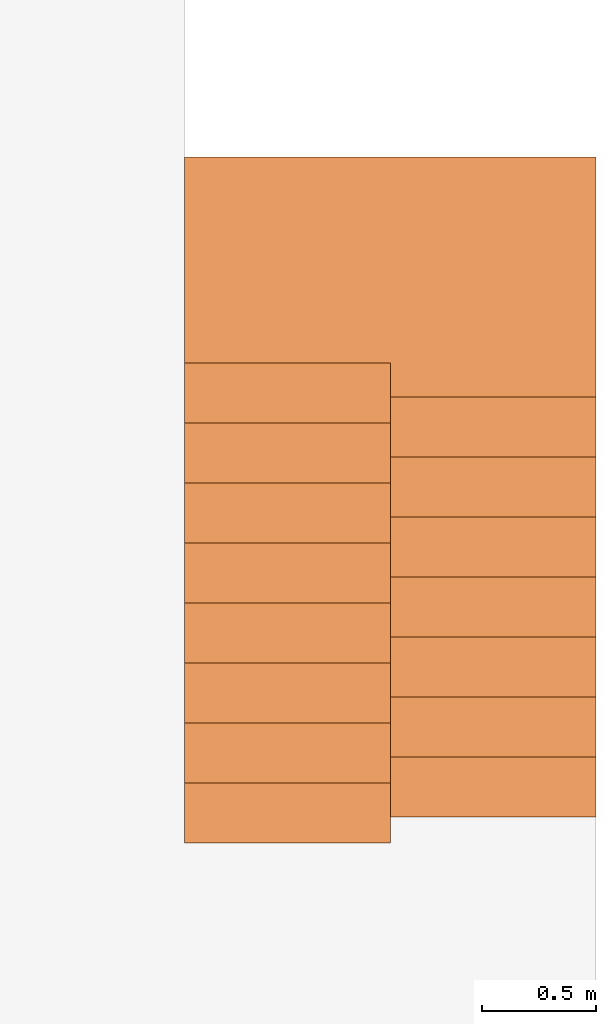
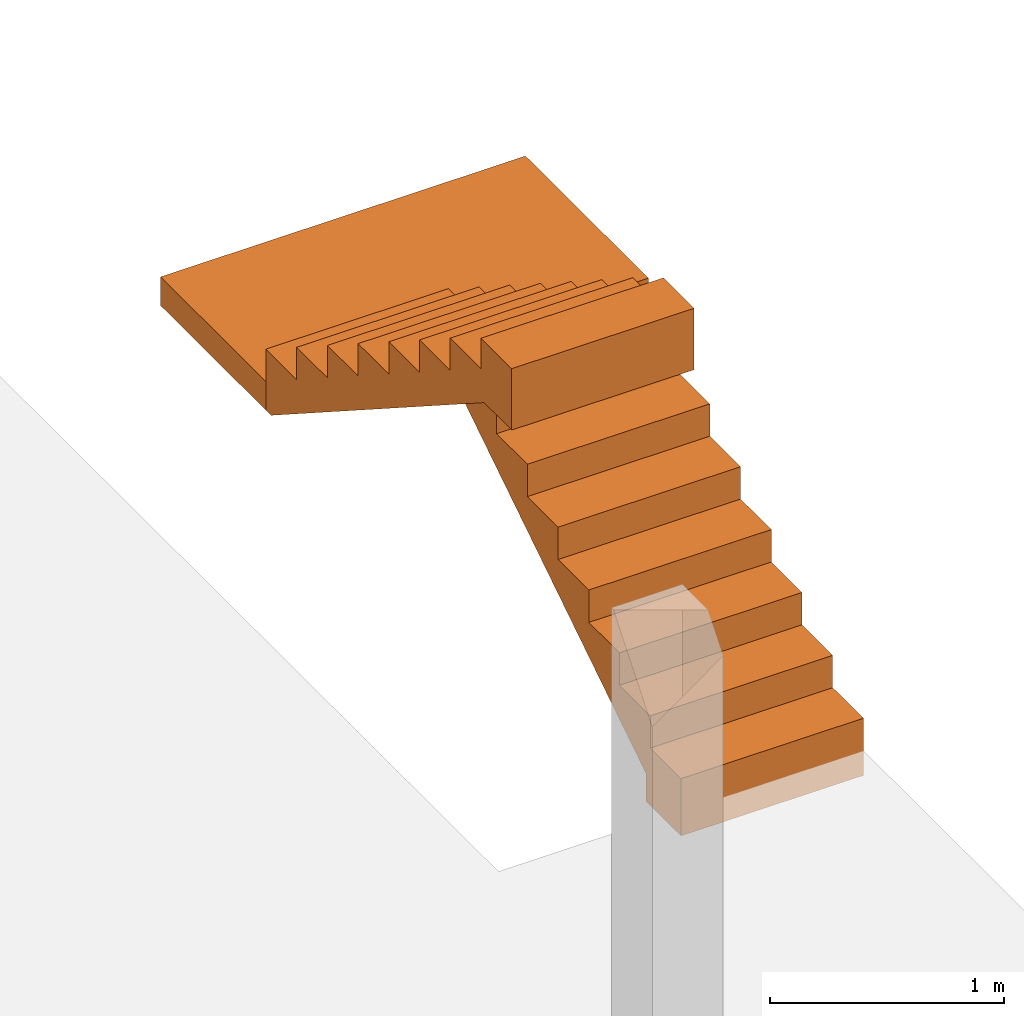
# One storey, part 2 of 2: 3 proxies, 1 element without a shape of its own.
"""IFC2X3 building model written with IfcOpenShell, lengths in metres."""

from ifc_helpers import new_model, entity, si_unit, converted_unit, money_unit, direction, frame, origin_with_axes, place, context, subcontext, project, spatial, faceted_brep, material, type_object, element, aggregate, save


model = new_model("IFC2X3")

# Units and contexts
model_context = context("Model", 3, precision=1e-05, world=origin_with_axes(), true_north=direction((0.0, 1.0)))
body_context = subcontext(model_context, "Body", "Model", "MODEL_VIEW")
ifc_project = project(units=[si_unit("LENGTHUNIT", "METRE"), si_unit("AREAUNIT", "SQUARE_METRE"), si_unit("VOLUMEUNIT", "CUBIC_METRE"), converted_unit("PLANEANGLEUNIT", "DEGREE", entity("IfcPlaneAngleMeasure", 0.0174532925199), si_unit("PLANEANGLEUNIT", "RADIAN"), dimensions=[0, 0, 0, 0, 0, 0, 0]), si_unit("SOLIDANGLEUNIT", "STERADIAN"), money_unit("EUR"), converted_unit("TIMEUNIT", "Year", entity("IfcTimeMeasure", 31556926.0), si_unit("TIMEUNIT", "SECOND"), dimensions=[0, 0, 0, 0, 0, 0, 0]), si_unit("MASSUNIT", "GRAM"), si_unit("THERMODYNAMICTEMPERATUREUNIT", "DEGREE_CELSIUS"), si_unit("LUMINOUSINTENSITYUNIT", "LUMEN")], contexts=[model_context])

# Site, building, storey
site_placement = place(None, origin_with_axes())
site = spatial("IfcSite", under=ifc_project, at=site_placement, Name="Site", CompositionType="ELEMENT")
building_placement = place(site_placement, origin_with_axes())
building = spatial("IfcBuilding", under=site, at=building_placement, Name="Bâtiment", CompositionType="ELEMENT")
storey_placement = place(building_placement, frame((0.0, 0.0, 2.7), z_axis=(0.0, 0.0, 1.0), x_axis=(1.0, 0.0, 0.0)))
storey = spatial("IfcBuildingStorey", under=building, at=storey_placement, Name="R+1", CompositionType="ELEMENT", Elevation=2.7)

# Proxies
building_element_proxy_type_1 = type_object("IfcBuildingElementProxyType", Name="Type d'escalier", PredefinedType="NOTDEFINED")
proxy_1_placement = place(storey_placement, frame((23.6960297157, 12.3070559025, 0.0), z_axis=(0.0, 0.0, 1.0), x_axis=(1.0, 0.0, 0.0)))
proxy_1 = element("IfcBuildingElementProxy", 1, at=proxy_1_placement, inside=storey, type_object=building_element_proxy_type_1, Name="ESC-001")
ifc_material = material(Name="GENERIQUE - STRUCTURE")
building_element_proxy_type_2 = type_object("IfcBuildingElementProxyType", Name="IfcBuildingElementProxy", PredefinedType="NOTDEFINED")
proxy_2_placement = place(proxy_1_placement, origin_with_axes())
proxy_2 = element("IfcBuildingElementProxy", 2, at=proxy_2_placement, type_object=building_element_proxy_type_2, material=ifc_material, Name="VOLEE-001", context=body_context, shape_type="Brep", body=[
    faceted_brep([(0.0, 1.8375, 1.18125), (-0.9, 1.8375, 1.18125), (-0.9, 1.575, 1.18125), (0.0, 1.575, 1.18125), (0.0, 1.8375, 1.2), (-0.9, 1.8375, 1.2), (-0.9, 1.8375, 1.00292874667), (-0.9, 1.79375, 0.974803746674), (-0.9, 1.75, 0.946678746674), (-0.9, 1.70625, 0.918553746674), (-0.9, 1.6625, 0.890428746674), (-0.9, 1.61875, 0.862303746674), (-0.9, 1.575, 0.834178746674), (-0.9, 1.53125, 0.806053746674), (-0.9, 1.4875, 0.777928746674), (-0.9, 1.44375, 0.749803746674), (-0.9, 1.4, 0.721678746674), (-0.9, 1.35625, 0.693553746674), (-0.9, 1.3125, 0.665428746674), (-0.9, 1.26875, 0.637303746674), (-0.9, 1.225, 0.609178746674), (-0.9, 1.18125, 0.581053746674), (-0.9, 1.1375, 0.552928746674), (-0.9, 1.09375, 0.524803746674), (-0.9, 1.05, 0.496678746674), (-0.9, 1.00625, 0.468553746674), (-0.9, 0.9625, 0.440428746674), (-0.9, 0.91875, 0.412303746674), (-0.9, 0.875, 0.384178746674), (-0.9, 0.83125, 0.356053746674), (-0.9, 0.7875, 0.327928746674), (-0.9, 0.74375, 0.299803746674), (-0.9, 0.7, 0.271678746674), (-0.9, 0.65625, 0.243553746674), (-0.9, 0.6125, 0.215428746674), (-0.9, 0.56875, 0.187303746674), (-0.9, 0.525, 0.159178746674), (-0.9, 0.48125, 0.131053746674), (-0.9, 0.4375, 0.102928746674), (-0.9, 0.39375, 0.074803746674), (-0.9, 0.35, 0.046678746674), (-0.9, 0.30625, 0.018553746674), (-0.9, 0.3, 0.0145358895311), (-0.9, 0.3, -0.13), (-0.9, 0.0, -0.13), (-0.9, 0.0, 0.16875), (-0.9, 0.2625, 0.16875), (-0.9, 0.2625, 0.3375), (-0.9, 0.525, 0.3375), (-0.9, 0.525, 0.50625), (-0.9, 0.7875, 0.50625), (-0.9, 0.7875, 0.675), (-0.9, 1.05, 0.675), (-0.9, 1.05, 0.84375), (-0.9, 1.3125, 0.84375), (-0.9, 1.3125, 1.0125), (-0.9, 1.575, 1.0125), (-0.9, 2.14405527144, 1.2), (0.0, 1.575, 1.0125), (0.0, 1.3125, 1.0125), (0.0, 1.3125, 0.84375), (0.0, 1.05, 0.84375), (0.0, 1.05, 0.675), (0.0, 0.7875, 0.675), (0.0, 0.7875, 0.50625), (0.0, 0.525, 0.50625), (0.0, 0.525, 0.3375), (0.0, 0.2625, 0.3375), (0.0, 0.2625, 0.16875), (0.0, 0.0, 0.16875), (0.0, 0.0, -0.13), (0.0, 0.3, -0.13), (0.0, 0.3, 0.0145358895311), (0.0, 0.30625, 0.018553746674), (0.0, 0.35, 0.046678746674), (0.0, 0.39375, 0.074803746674), (0.0, 0.4375, 0.102928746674), (0.0, 0.48125, 0.131053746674), (0.0, 0.525, 0.159178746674), (0.0, 0.56875, 0.187303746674), (0.0, 0.6125, 0.215428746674), (0.0, 0.65625, 0.243553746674), (0.0, 0.7, 0.271678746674), (0.0, 0.74375, 0.299803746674), (0.0, 0.7875, 0.327928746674), (0.0, 0.83125, 0.356053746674), (0.0, 0.875, 0.384178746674), (0.0, 0.91875, 0.412303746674), (0.0, 0.9625, 0.440428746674), (0.0, 1.00625, 0.468553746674), (0.0, 1.05, 0.496678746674), (0.0, 1.09375, 0.524803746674), (0.0, 1.1375, 0.552928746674), (0.0, 1.18125, 0.581053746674), (0.0, 1.225, 0.609178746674), (0.0, 1.26875, 0.637303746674), (0.0, 1.3125, 0.665428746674), (0.0, 1.35625, 0.693553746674), (0.0, 1.4, 0.721678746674), (0.0, 1.44375, 0.749803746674), (0.0, 1.4875, 0.777928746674), (0.0, 1.53125, 0.806053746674), (0.0, 1.575, 0.834178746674), (0.0, 1.61875, 0.862303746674), (0.0, 1.6625, 0.890428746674), (0.0, 1.70625, 0.918553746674), (0.0, 1.75, 0.946678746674), (0.0, 1.79375, 0.974803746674), (0.0, 1.8375, 1.00292874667), (0.0, 2.14405527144, 1.2), (-0.45, 1.75, 0.946678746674), (-0.45, 1.6625, 0.890428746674), (-0.45, 1.575, 0.834178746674), (-0.45, 1.4875, 0.777928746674), (-0.45, 1.4, 0.721678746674), (-0.45, 1.3125, 0.665428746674), (-0.45, 1.225, 0.609178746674), (-0.45, 1.1375, 0.552928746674), (-0.45, 1.05, 0.496678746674), (-0.45, 0.9625, 0.440428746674), (-0.45, 0.875, 0.384178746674), (-0.45, 0.7875, 0.327928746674), (-0.45, 0.7, 0.271678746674), (-0.45, 0.6125, 0.215428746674), (-0.45, 0.525, 0.159178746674), (-0.45, 0.4375, 0.102928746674), (-0.45, 0.35, 0.046678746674), (-0.835714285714, 0.3, 0.0145358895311), (-0.0642857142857, 0.3, 0.0145358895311)], [[[0, 1, 2, 3]], [[1, 0, 4, 5]], [[6, 7, 8, 9, 10, 11, 12, 13, 14, 15, 16, 17, 18, 19, 20, 21, 22, 23, 24, 25, 26, 27, 28, 29, 30, 31, 32, 33, 34, 35, 36, 37, 38, 39, 40, 41, 42, 43, 44, 45, 46, 47, 48, 49, 50, 51, 52, 53, 54, 55, 56, 2, 1, 5, 57]], [[58, 3, 2, 56]], [[0, 3, 58, 59, 60, 61, 62, 63, 64, 65, 66, 67, 68, 69, 70, 71, 72, 73, 74, 75, 76, 77, 78, 79, 80, 81, 82, 83, 84, 85, 86, 87, 88, 89, 90, 91, 92, 93, 94, 95, 96, 97, 98, 99, 100, 101, 102, 103, 104, 105, 106, 107, 108, 109, 4]], [[109, 57, 5, 4]], [[108, 107, 110, 7, 6, 57, 109]], [[7, 110, 8]], [[8, 110, 9]], [[9, 111, 10]], [[10, 111, 11]], [[11, 112, 12]], [[12, 112, 13]], [[13, 113, 14]], [[14, 113, 15]], [[15, 114, 16]], [[16, 114, 17]], [[17, 115, 18]], [[18, 115, 19]], [[19, 116, 20]], [[20, 116, 21]], [[21, 117, 22]], [[22, 117, 23]], [[23, 118, 24]], [[24, 118, 25]], [[25, 119, 26]], [[26, 119, 27]], [[27, 120, 28]], [[28, 120, 29]], [[29, 121, 30]], [[30, 121, 31]], [[31, 122, 32]], [[32, 122, 33]], [[33, 123, 34]], [[34, 123, 35]], [[35, 124, 36]], [[36, 124, 37]], [[37, 125, 38]], [[38, 125, 39]], [[39, 126, 40]], [[40, 126, 41]], [[41, 127, 42]], [[127, 128, 72, 71, 43, 42]], [[71, 70, 44, 43]], [[69, 45, 44, 70]], [[46, 45, 69, 68]], [[68, 67, 47, 46]], [[48, 47, 67, 66]], [[66, 65, 49, 48]], [[50, 49, 65, 64]], [[64, 63, 51, 50]], [[52, 51, 63, 62]], [[62, 61, 53, 52]], [[54, 53, 61, 60]], [[60, 59, 55, 54]], [[56, 55, 59, 58]], [[73, 72, 128]], [[73, 126, 74]], [[74, 126, 75]], [[75, 125, 76]], [[76, 125, 77]], [[77, 124, 78]], [[78, 124, 79]], [[79, 123, 80]], [[80, 123, 81]], [[81, 122, 82]], [[82, 122, 83]], [[83, 121, 84]], [[84, 121, 85]], [[85, 120, 86]], [[86, 120, 87]], [[87, 119, 88]], [[88, 119, 89]], [[89, 118, 90]], [[90, 118, 91]], [[91, 117, 92]], [[92, 117, 93]], [[93, 116, 94]], [[94, 116, 95]], [[95, 115, 96]], [[96, 115, 97]], [[97, 114, 98]], [[98, 114, 99]], [[99, 113, 100]], [[100, 113, 101]], [[101, 112, 102]], [[102, 112, 103]], [[103, 111, 104]], [[104, 111, 105]], [[105, 110, 106]], [[106, 110, 107]], [[9, 110, 105, 111]], [[112, 11, 111, 103]], [[13, 112, 101, 113]], [[15, 113, 99, 114]], [[17, 114, 97, 115]], [[19, 115, 95, 116]], [[117, 21, 116, 93]], [[23, 117, 91, 118]], [[25, 118, 89, 119]], [[27, 119, 87, 120]], [[121, 29, 120, 85]], [[31, 121, 83, 122]], [[123, 33, 122, 81]], [[35, 123, 79, 124]], [[125, 37, 124, 77]], [[126, 39, 125, 75]], [[73, 128, 127, 41, 126]]]),
])
proxy_3_placement = place(proxy_1_placement, origin_with_axes())
proxy_3 = element("IfcBuildingElementProxy", 3, at=proxy_3_placement, type_object=building_element_proxy_type_2, material=ifc_material, Name="PALIER-001", context=body_context, shape_type="Brep", body=[
    faceted_brep([(-0.9, 1.8375, 1.2), (0.0, 1.8375, 1.2), (0.0, 1.8375, 1.35), (-0.9, 1.8375, 1.35), (-0.9, 1.9875, 1.2), (-1.8, 1.9875, 1.2), (-1.8, 2.8875, 1.2), (0.0, 2.8875, 1.2), (0.0, 2.8875, 1.35), (-1.8, 2.8875, 1.35), (-1.8, 1.9875, 1.35), (-0.9, 1.9875, 1.35)], [[[0, 1, 2, 3]], [[0, 4, 5, 6, 7, 1]], [[1, 7, 8, 2]], [[3, 2, 8, 9, 10, 11]], [[4, 0, 3, 11]], [[5, 4, 11, 10]], [[6, 5, 10, 9]], [[7, 6, 9, 8]]]),
])
proxy_4_placement = place(proxy_1_placement, origin_with_axes())
proxy_4 = element("IfcBuildingElementProxy", 4, at=proxy_4_placement, type_object=building_element_proxy_type_2, material=ifc_material, Name="VOLEE-002", context=body_context, shape_type="Brep", body=[
    faceted_brep([(-1.8, -0.1125, 2.69), (-1.8, -0.1125, 2.52167874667), (-0.9, -0.1125, 2.52167874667), (-0.9, -0.1125, 2.69), (-1.8, -0.1125, 2.37), (-1.8, 0.15, 2.69), (-1.8, 0.15, 2.53125), (-1.8, 0.4125, 2.53125), (-1.8, 0.4125, 2.3625), (-1.8, 0.675, 2.3625), (-1.8, 0.675, 2.19375), (-1.8, 0.9375, 2.19375), (-1.8, 0.9375, 2.025), (-1.8, 1.2, 2.025), (-1.8, 1.2, 1.85625), (-1.8, 1.4625, 1.85625), (-1.8, 1.4625, 1.6875), (-1.8, 1.725, 1.6875), (-1.8, 1.725, 1.51875), (-1.8, 1.9875, 1.51875), (-1.8, 1.9875, 1.2), (-1.8, 1.94344471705, 1.2), (-1.8, 1.9, 1.22792874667), (-1.8, 1.85625, 1.25605374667), (-1.8, 1.8125, 1.28417874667), (-1.8, 1.76875, 1.31230374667), (-1.8, 1.725, 1.34042874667), (-1.8, 1.68125, 1.36855374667), (-1.8, 1.6375, 1.39667874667), (-1.8, 1.59375, 1.42480374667), (-1.8, 1.55, 1.45292874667), (-1.8, 1.50625, 1.48105374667), (-1.8, 1.4625, 1.50917874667), (-1.8, 1.41875, 1.53730374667), (-1.8, 1.375, 1.56542874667), (-1.8, 1.33125, 1.59355374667), (-1.8, 1.2875, 1.62167874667), (-1.8, 1.24375, 1.64980374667), (-1.8, 1.2, 1.67792874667), (-1.8, 1.15625, 1.70605374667), (-1.8, 1.1125, 1.73417874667), (-1.8, 1.06875, 1.76230374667), (-1.8, 1.025, 1.79042874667), (-1.8, 0.98125, 1.81855374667), (-1.8, 0.9375, 1.84667874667), (-1.8, 0.89375, 1.87480374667), (-1.8, 0.85, 1.90292874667), (-1.8, 0.80625, 1.93105374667), (-1.8, 0.7625, 1.95917874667), (-1.8, 0.71875, 1.98730374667), (-1.8, 0.675, 2.01542874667), (-1.8, 0.63125, 2.04355374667), (-1.8, 0.5875, 2.07167874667), (-1.8, 0.54375, 2.09980374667), (-1.8, 0.5, 2.12792874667), (-1.8, 0.45625, 2.15605374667), (-1.8, 0.4125, 2.18417874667), (-1.8, 0.36875, 2.21230374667), (-1.8, 0.325, 2.24042874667), (-1.8, 0.28125, 2.26855374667), (-1.8, 0.2375, 2.29667874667), (-1.8, 0.19375, 2.32480374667), (-1.8, 0.15, 2.35292874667), (-1.8, 0.123444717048, 2.37), (-0.9, -0.1125, 2.37), (-0.9, 0.123444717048, 2.37), (-0.9, 0.15, 2.35292874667), (-0.9, 0.19375, 2.32480374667), (-0.9, 0.2375, 2.29667874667), (-0.9, 0.28125, 2.26855374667), (-0.9, 0.325, 2.24042874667), (-0.9, 0.36875, 2.21230374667), (-0.9, 0.4125, 2.18417874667), (-0.9, 0.45625, 2.15605374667), (-0.9, 0.5, 2.12792874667), (-0.9, 0.54375, 2.09980374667), (-0.9, 0.5875, 2.07167874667), (-0.9, 0.63125, 2.04355374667), (-0.9, 0.675, 2.01542874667), (-0.9, 0.71875, 1.98730374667), (-0.9, 0.7625, 1.95917874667), (-0.9, 0.80625, 1.93105374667), (-0.9, 0.85, 1.90292874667), (-0.9, 0.89375, 1.87480374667), (-0.9, 0.9375, 1.84667874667), (-0.9, 0.98125, 1.81855374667), (-0.9, 1.025, 1.79042874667), (-0.9, 1.06875, 1.76230374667), (-0.9, 1.1125, 1.73417874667), (-0.9, 1.15625, 1.70605374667), (-0.9, 1.2, 1.67792874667), (-0.9, 1.24375, 1.64980374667), (-0.9, 1.2875, 1.62167874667), (-0.9, 1.33125, 1.59355374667), (-0.9, 1.375, 1.56542874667), (-0.9, 1.41875, 1.53730374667), (-0.9, 1.4625, 1.50917874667), (-0.9, 1.50625, 1.48105374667), (-0.9, 1.55, 1.45292874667), (-0.9, 1.59375, 1.42480374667), (-0.9, 1.6375, 1.39667874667), (-0.9, 1.68125, 1.36855374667), (-0.9, 1.725, 1.34042874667), (-0.9, 1.76875, 1.31230374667), (-0.9, 1.8125, 1.28417874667), (-0.9, 1.85625, 1.25605374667), (-0.9, 1.9, 1.22792874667), (-0.9, 1.94344471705, 1.2), (-0.9, 1.9875, 1.2), (-0.9, 1.9875, 1.51875), (-0.9, 1.725, 1.51875), (-0.9, 1.725, 1.6875), (-0.9, 1.4625, 1.6875), (-0.9, 1.4625, 1.85625), (-0.9, 1.2, 1.85625), (-0.9, 1.2, 2.025), (-0.9, 0.9375, 2.025), (-0.9, 0.9375, 2.19375), (-0.9, 0.675, 2.19375), (-0.9, 0.675, 2.3625), (-0.9, 0.4125, 2.3625), (-0.9, 0.4125, 2.53125), (-0.9, 0.15, 2.53125), (-0.9, 0.15, 2.69), (-0.903140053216, 1.94344471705, 1.2), (-1.79685994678, 1.94344471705, 1.2), (-1.35, 1.9, 1.22792874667), (-1.35, 1.8125, 1.28417874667), (-1.35, 1.725, 1.34042874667), (-1.35, 1.6375, 1.39667874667), (-1.35, 1.55, 1.45292874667), (-1.35, 1.4625, 1.50917874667), (-1.35, 1.375, 1.56542874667), (-1.35, 1.2875, 1.62167874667), (-1.35, 1.2, 1.67792874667), (-1.35, 1.1125, 1.73417874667), (-1.35, 1.025, 1.79042874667), (-1.35, 0.9375, 1.84667874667), (-1.35, 0.85, 1.90292874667), (-1.35, 0.7625, 1.95917874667), (-1.35, 0.675, 2.01542874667), (-1.35, 0.5875, 2.07167874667), (-1.35, 0.5, 2.12792874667), (-1.35, 0.4125, 2.18417874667), (-1.35, 0.325, 2.24042874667), (-1.35, 0.2375, 2.29667874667), (-1.35, 0.15, 2.35292874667), (-1.62314005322, 0.123444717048, 2.37), (-1.07685994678, 0.123444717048, 2.37)], [[[0, 1, 2, 3]], [[4, 1, 0, 5, 6, 7, 8, 9, 10, 11, 12, 13, 14, 15, 16, 17, 18, 19, 20, 21, 22, 23, 24, 25, 26, 27, 28, 29, 30, 31, 32, 33, 34, 35, 36, 37, 38, 39, 40, 41, 42, 43, 44, 45, 46, 47, 48, 49, 50, 51, 52, 53, 54, 55, 56, 57, 58, 59, 60, 61, 62, 63]], [[64, 2, 1, 4]], [[64, 65, 66, 67, 68, 69, 70, 71, 72, 73, 74, 75, 76, 77, 78, 79, 80, 81, 82, 83, 84, 85, 86, 87, 88, 89, 90, 91, 92, 93, 94, 95, 96, 97, 98, 99, 100, 101, 102, 103, 104, 105, 106, 107, 108, 109, 110, 111, 112, 113, 114, 115, 116, 117, 118, 119, 120, 121, 122, 123, 3, 2]], [[3, 123, 5, 0]], [[6, 5, 123, 122]], [[122, 121, 7, 6]], [[8, 7, 121, 120]], [[120, 119, 9, 8]], [[10, 9, 119, 118]], [[118, 117, 11, 10]], [[12, 11, 117, 116]], [[116, 115, 13, 12]], [[14, 13, 115, 114]], [[114, 113, 15, 14]], [[16, 15, 113, 112]], [[112, 111, 17, 16]], [[18, 17, 111, 110]], [[110, 109, 19, 18]], [[109, 108, 20, 19]], [[21, 20, 108, 107, 124, 125]], [[125, 126, 22, 21]], [[22, 126, 23]], [[23, 127, 24]], [[24, 127, 25]], [[25, 128, 26]], [[26, 128, 27]], [[27, 129, 28]], [[28, 129, 29]], [[29, 130, 30]], [[30, 130, 31]], [[31, 131, 32]], [[32, 131, 33]], [[33, 132, 34]], [[34, 132, 35]], [[35, 133, 36]], [[36, 133, 37]], [[37, 134, 38]], [[38, 134, 39]], [[39, 135, 40]], [[40, 135, 41]], [[41, 136, 42]], [[42, 136, 43]], [[43, 137, 44]], [[44, 137, 45]], [[45, 138, 46]], [[46, 138, 47]], [[47, 139, 48]], [[48, 139, 49]], [[49, 140, 50]], [[50, 140, 51]], [[51, 141, 52]], [[52, 141, 53]], [[53, 142, 54]], [[54, 142, 55]], [[55, 143, 56]], [[56, 143, 57]], [[57, 144, 58]], [[58, 144, 59]], [[59, 145, 60]], [[60, 145, 61]], [[61, 146, 62]], [[146, 147, 63, 62]], [[147, 148, 65, 64, 4, 63]], [[66, 65, 148, 146]], [[66, 146, 67]], [[67, 145, 68]], [[68, 145, 69]], [[69, 144, 70]], [[70, 144, 71]], [[71, 143, 72]], [[72, 143, 73]], [[73, 142, 74]], [[74, 142, 75]], [[75, 141, 76]], [[76, 141, 77]], [[77, 140, 78]], [[78, 140, 79]], [[79, 139, 80]], [[80, 139, 81]], [[81, 138, 82]], [[82, 138, 83]], [[83, 137, 84]], [[84, 137, 85]], [[85, 136, 86]], [[86, 136, 87]], [[87, 135, 88]], [[88, 135, 89]], [[89, 134, 90]], [[90, 134, 91]], [[91, 133, 92]], [[92, 133, 93]], [[93, 132, 94]], [[94, 132, 95]], [[95, 131, 96]], [[96, 131, 97]], [[97, 130, 98]], [[98, 130, 99]], [[99, 129, 100]], [[100, 129, 101]], [[101, 128, 102]], [[102, 128, 103]], [[103, 127, 104]], [[104, 127, 105]], [[105, 126, 106]], [[126, 124, 107, 106]], [[126, 125, 124]], [[127, 23, 126, 105]], [[25, 127, 103, 128]], [[129, 27, 128, 101]], [[130, 29, 129, 99]], [[31, 130, 97, 131]], [[33, 131, 95, 132]], [[133, 35, 132, 93]], [[134, 37, 133, 91]], [[135, 39, 134, 89]], [[136, 41, 135, 87]], [[137, 43, 136, 85]], [[138, 45, 137, 83]], [[139, 47, 138, 81]], [[140, 49, 139, 79]], [[141, 51, 140, 77]], [[53, 141, 75, 142]], [[143, 55, 142, 73]], [[144, 57, 143, 71]], [[145, 59, 144, 69]], [[146, 61, 145, 67]], [[146, 148, 147]]]),
])
aggregate(proxy_1, [proxy_2, proxy_3, proxy_4])

save(model, "model.ifc")
